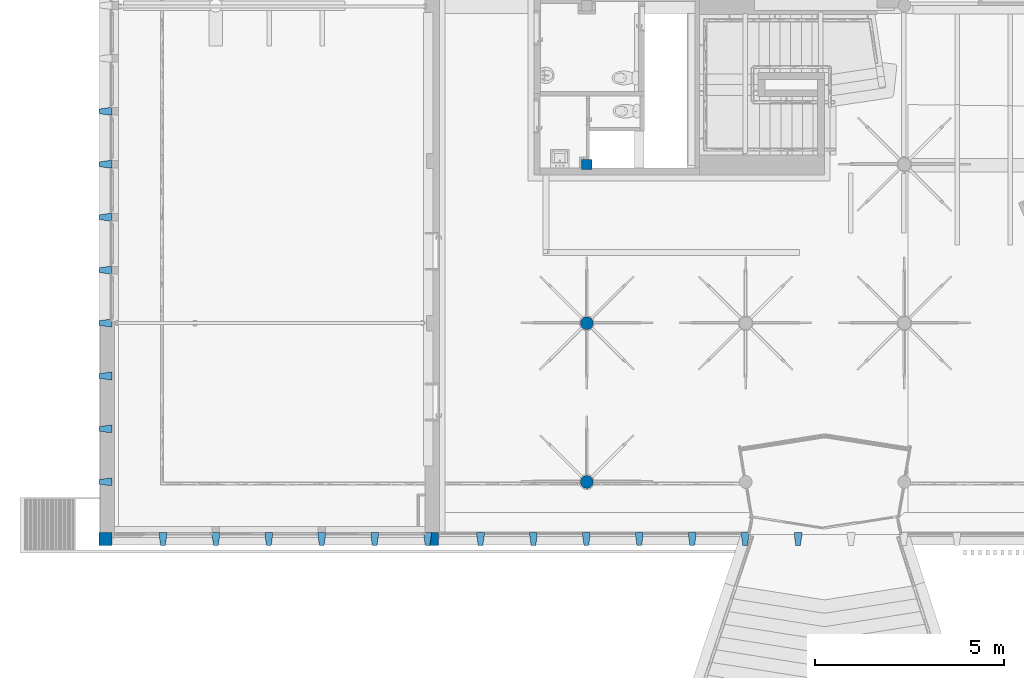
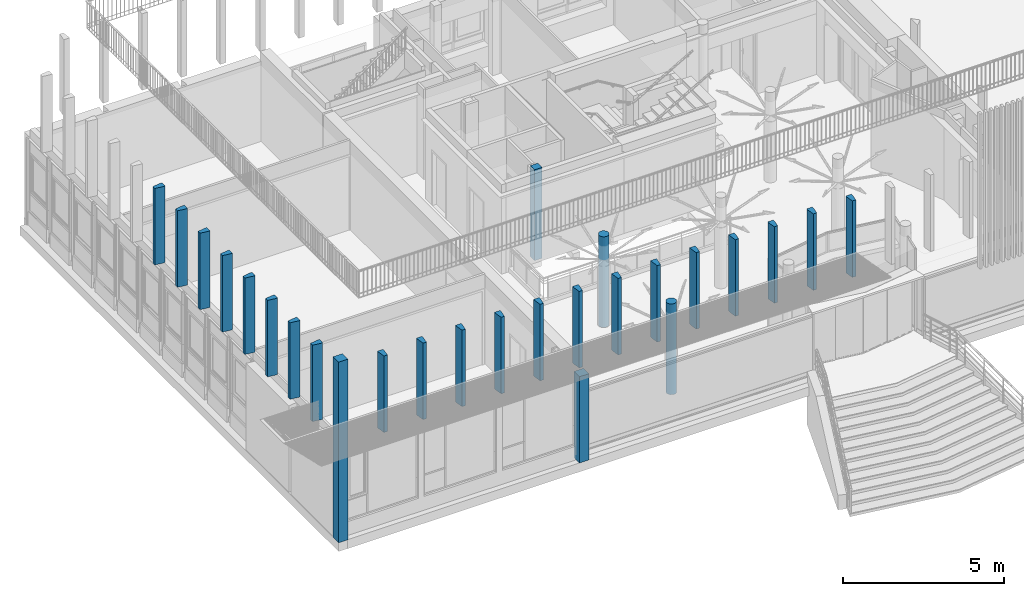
# One storey, part 1 of 65: 26 columns.
"""IFC4 building model written with IfcOpenShell, lengths in metres."""

from ifc_helpers import new_model, entity, si_unit, converted_unit, derived_unit, direction, frame, origin, place, context, subcontext, project, spatial, indexed_curve, outline, extrude, source, transform, mapped, material, material_list, type_object, type_shapes, element, save


model = new_model("IFC4")

# Units and contexts
model_context = context("Model", 3, precision=1e-05, world=origin(), true_north=direction((6.12303176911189e-17, 1.0)))
body_context = subcontext(model_context, "Body", "Model", "MODEL_VIEW")
ifc_project = project(units=[si_unit("LENGTHUNIT", "METRE"), si_unit("AREAUNIT", "SQUARE_METRE"), si_unit("VOLUMEUNIT", "CUBIC_METRE"), converted_unit("PLANEANGLEUNIT", "DEGREE", entity("IfcRatioMeasure", 0.0174532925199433), si_unit("PLANEANGLEUNIT", "RADIAN"), dimensions=[0, 0, 0, 0, 0, 0, 0]), si_unit("MASSUNIT", "GRAM", prefix="KILO"), derived_unit("MASSDENSITYUNIT", [(si_unit("MASSUNIT", "GRAM", prefix="KILO"), 1), (si_unit("LENGTHUNIT", "METRE"), -3)]), derived_unit("MOMENTOFINERTIAUNIT", [(si_unit("LENGTHUNIT", "METRE"), 4)]), si_unit("TIMEUNIT", "SECOND"), si_unit("FREQUENCYUNIT", "HERTZ"), si_unit("THERMODYNAMICTEMPERATUREUNIT", "DEGREE_CELSIUS"), derived_unit("THERMALTRANSMITTANCEUNIT", [(si_unit("MASSUNIT", "GRAM", prefix="KILO"), 1), (si_unit("THERMODYNAMICTEMPERATUREUNIT", "KELVIN"), -1), (si_unit("TIMEUNIT", "SECOND"), -3)]), derived_unit("VOLUMETRICFLOWRATEUNIT", [(si_unit("LENGTHUNIT", "METRE"), 3), (si_unit("TIMEUNIT", "SECOND"), -1)]), si_unit("ELECTRICCURRENTUNIT", "AMPERE"), si_unit("ELECTRICVOLTAGEUNIT", "VOLT"), si_unit("POWERUNIT", "WATT"), si_unit("FORCEUNIT", "NEWTON", prefix="KILO"), si_unit("ILLUMINANCEUNIT", "LUX"), si_unit("LUMINOUSFLUXUNIT", "LUMEN"), si_unit("LUMINOUSINTENSITYUNIT", "CANDELA"), derived_unit("USERDEFINED", [(si_unit("MASSUNIT", "GRAM", prefix="KILO"), -1), (si_unit("LENGTHUNIT", "METRE"), -2), (si_unit("TIMEUNIT", "SECOND"), 3), (si_unit("LUMINOUSFLUXUNIT", "LUMEN"), 1)]), derived_unit("LINEARVELOCITYUNIT", [(si_unit("LENGTHUNIT", "METRE"), 1), (si_unit("TIMEUNIT", "SECOND"), -1)]), si_unit("PRESSUREUNIT", "PASCAL"), derived_unit("USERDEFINED", [(si_unit("LENGTHUNIT", "METRE"), -2), (si_unit("MASSUNIT", "GRAM", prefix="KILO"), 1), (si_unit("TIMEUNIT", "SECOND"), -2)]), derived_unit("LINEARFORCEUNIT", [(si_unit("MASSUNIT", "GRAM", prefix="KILO"), 1), (si_unit("LENGTHUNIT", "METRE"), 1), (si_unit("TIMEUNIT", "SECOND"), -2), (si_unit("LENGTHUNIT", "METRE"), -1)]), derived_unit("PLANARFORCEUNIT", [(si_unit("MASSUNIT", "GRAM", prefix="KILO"), 1), (si_unit("LENGTHUNIT", "METRE"), 1), (si_unit("TIMEUNIT", "SECOND"), -2), (si_unit("LENGTHUNIT", "METRE"), -2)])], contexts=[model_context])

# Site, building, storey
site_placement = place(None, origin())
site = spatial("IfcSite", under=ifc_project, at=site_placement, Name="Default", CompositionType="ELEMENT")
building_placement = place(site_placement, origin())
building = spatial("IfcBuilding", under=site, at=building_placement, Name="HOTEL CONSULAIRE BOULOGNE SUR MER", CompositionType="ELEMENT")
storey_placement = place(building_placement, origin())
storey = spatial("IfcBuildingStorey", under=building, at=storey_placement, Name="Niveau 0", CompositionType="ELEMENT", Elevation=1.31981936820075e-13)

# Columns
ifc_material_1 = material(Name="Maçonnerie - Béton coulé sur place", Category="Béton")
column_type_1 = type_object("IfcColumnType", Name="Poteau béton - Arrondi:340", PredefinedType="COLUMN", material=ifc_material_1)
shared_shape_1 = source(origin(), body_context, "Body", "SweptSolid", [
    extrude(outline(indexed_curve([(0.169999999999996, -2.97350308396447e-16), (0.161679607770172, 0.0525328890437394), (0.137532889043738, 0.0999234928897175), (0.099923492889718, 0.137532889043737), (0.0525328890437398, 0.161679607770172), (1.86135598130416e-16, 0.169999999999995), (-0.0525328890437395, 0.161679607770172), (-0.0999234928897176, 0.137532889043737), (-0.137532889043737, 0.0999234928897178), (-0.161679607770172, 0.0525328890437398), (-0.169999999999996, 1.7643968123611e-16), (-0.161679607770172, -0.0525328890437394), (-0.137532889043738, -0.0999234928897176), (-0.0999234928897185, -0.137532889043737), (-0.0525328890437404, -0.161679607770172), (-8.18583797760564e-16, -0.169999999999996), (0.0525328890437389, -0.161679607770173), (0.0999234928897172, -0.137532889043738), (0.137532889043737, -0.099923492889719), (0.161679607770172, -0.052532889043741), (0.169999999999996, -2.97350308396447e-16)], self_intersect=False)), frame((0.0, 0.0, -0.0199999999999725)), (0.0, 0.0, 1.0), 3.44152697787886),
])
type_shapes(column_type_1, [shared_shape_1])
for number, where in (
    (1, (-1.22882322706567, -24.015909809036, 0.0)),
    (2, (-1.22882322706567, -28.215909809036, 0.0)),
):
    element("IfcColumn", number, at=place(storey_placement, frame(where)), inside=storey, type_object=column_type_1, material=ifc_material_1, Name="Poteau béton - Arrondi:340", ObjectType="Poteau béton - Arrondi:340", PredefinedType="COLUMN", context=body_context, shape_type="MappedRepresentation", body=[
        mapped(shared_shape_1, transform((0.0, 0.0, 0.0), scale=1.0)),
    ])
column_type_2 = type_object("IfcColumnType", Name="Poteau béton - Rectangulaire:270x270", PredefinedType="COLUMN", material=ifc_material_1)
shared_shape_2 = source(origin(), body_context, "Body", "SweptSolid", [
    extrude(outline(indexed_curve([(-0.135, -0.135), (0.135, -0.135), (0.135, 0.135), (-0.135, 0.135), (-0.135, -0.135)], self_intersect=False)), frame((-1.22882322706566, -19.815909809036, -0.0199999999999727), z_axis=(0.0, 0.0, 1.0), x_axis=(0.0, -1.0, 0.0)), (0.0, 0.0, 1.0), 3.44152697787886),
])
type_shapes(column_type_2, [shared_shape_2])
column_1_placement = place(storey_placement, origin())
element("IfcColumn", 3, at=column_1_placement, inside=storey, type_object=column_type_2, material=ifc_material_1, Name="Poteau béton - Rectangulaire:270x270", ObjectType="Poteau béton - Rectangulaire:270x270", PredefinedType="COLUMN", context=body_context, shape_type="MappedRepresentation", body=[
    mapped(shared_shape_2, transform((0.0, 0.0, 0.0), scale=1.0)),
])
column_type_3 = type_object("IfcColumnType", Name="Poteau béton - Rectangulaire:340x340", PredefinedType="COLUMN", material=ifc_material_1)
shared_shape_3 = source(origin(), body_context, "Body", "SweptSolid", [
    extrude(outline(indexed_curve([(-0.169999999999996, -0.17), (0.170000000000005, -0.17), (0.170000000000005, 0.17), (-0.169999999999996, 0.17), (-0.169999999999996, -0.17)], self_intersect=False)), frame((-13.9639806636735, -29.7240671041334, -0.219999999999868), z_axis=(0.0, 0.0, 1.0), x_axis=(0.0, -1.0, 0.0)), (0.0, 0.0, 1.0), 6.85199999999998),
])
type_shapes(column_type_3, [shared_shape_3])
column_2_placement = place(storey_placement, origin())
element("IfcColumn", 4, at=column_2_placement, inside=storey, type_object=column_type_3, material=ifc_material_1, Name="Poteau béton - Rectangulaire:340x340", ObjectType="Poteau béton - Rectangulaire:340x340", PredefinedType="COLUMN", context=body_context, shape_type="MappedRepresentation", body=[
    mapped(shared_shape_3, transform((0.0, 0.0, 0.0), scale=1.0)),
])
ifc_material_2 = material(Name="Finition Peinture - Blanc satiné", Category="Peinture")
ifc_material_list_1 = material_list([ifc_material_1, ifc_material_2])
column_type_4 = type_object("IfcColumnType", Name="Poteau béton - Rectangulaire:340x340", PredefinedType="COLUMN", material=ifc_material_list_1)
shared_shape_4 = source(origin(), body_context, "Body", "SweptSolid", [
    extrude(outline(indexed_curve([(-0.17, -0.17), (0.17, -0.17), (0.17, 0.169999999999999), (-0.17, 0.17), (-0.17, -0.17)], self_intersect=False)), frame((-5.31898066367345, -29.7240671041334, -0.219999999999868), z_axis=(0.0, 0.0, 1.0), x_axis=(0.0, -1.0, 0.0)), (0.0, 0.0, 1.0), 3.2715269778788),
])
type_shapes(column_type_4, [shared_shape_4])
column_3_placement = place(storey_placement, origin())
element("IfcColumn", 5, at=column_3_placement, inside=storey, type_object=column_type_4, material=ifc_material_2, Name="Poteau béton - Rectangulaire:340x340", ObjectType="Poteau béton - Rectangulaire:340x340", PredefinedType="COLUMN", context=body_context, shape_type="MappedRepresentation", body=[
    mapped(shared_shape_4, transform((0.0, 0.0, 0.0), scale=1.0)),
])
ifc_material_3 = material(Name="<Unnamed>")
ifc_material_list_2 = material_list([ifc_material_2, ifc_material_3])
column_type_5 = type_object("IfcColumnType", Name="Poteaux porteurs 23:Poteaux porteurs 1", PredefinedType="COLUMN", material=ifc_material_list_2)
shared_shape_5 = source(origin(), body_context, "Body", "SweptSolid", [
    extrude(outline(indexed_curve([(-0.140333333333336, -0.100000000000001), (-0.0593333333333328, -0.100000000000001), (0.199666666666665, -0.0611499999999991), (0.199666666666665, 0.0611499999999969), (-0.0593333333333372, 0.0999999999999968), (-0.140333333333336, 0.0999999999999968), (-0.140333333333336, -0.100000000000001)], self_intersect=False)), frame((-11.0414199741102, -29.6944004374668, 3.39110477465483), z_axis=(0.0, 0.0, 1.0), x_axis=(0.0, -1.0, 0.0)), (0.0, 0.0, 1.0), 2.90089522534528),
])
type_shapes(column_type_5, [shared_shape_5])
column_4_placement = place(storey_placement, frame((15.7659645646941, -33.6528698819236, 0.0), z_axis=(0.0, 0.0, 1.0), x_axis=(0.0, -1.0, 0.0)))
element("IfcColumn", 6, at=column_4_placement, inside=storey, type_object=column_type_5, material=ifc_material_2, Name="Poteaux porteurs 23:Poteaux porteurs 1", ObjectType="Poteaux porteurs 23:Poteaux porteurs 1", PredefinedType="COLUMN", context=body_context, shape_type="MappedRepresentation", body=[
    mapped(shared_shape_5, transform((0.0, 0.0, 0.0), scale=1.0)),
])
ifc_material_list_3 = material_list([ifc_material_2, ifc_material_3])
column_type_6 = type_object("IfcColumnType", Name="Poteaux porteurs 24:Poteaux porteurs 1", PredefinedType="COLUMN", material=ifc_material_list_3)
shared_shape_6 = source(origin(), body_context, "Body", "SweptSolid", [
    extrude(outline(indexed_curve([(-0.140333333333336, -0.100000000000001), (-0.0593333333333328, -0.100000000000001), (0.199666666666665, -0.0611499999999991), (0.199666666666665, 0.0611499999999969), (-0.0593333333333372, 0.0999999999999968), (-0.140333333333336, 0.0999999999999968), (-0.140333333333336, -0.100000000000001)], self_intersect=False)), frame((-11.0414199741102, -29.6944004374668, 3.39110477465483), z_axis=(0.0, 0.0, 1.0), x_axis=(0.0, -1.0, 0.0)), (0.0, 0.0, 1.0), 2.90089522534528),
])
type_shapes(column_type_6, [shared_shape_6])
column_5_placement = place(storey_placement, frame((15.7659645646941, -35.0528698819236, 0.0), z_axis=(0.0, 0.0, 1.0), x_axis=(0.0, -1.0, 0.0)))
element("IfcColumn", 7, at=column_5_placement, inside=storey, type_object=column_type_6, material=ifc_material_2, Name="Poteaux porteurs 24:Poteaux porteurs 1", ObjectType="Poteaux porteurs 24:Poteaux porteurs 1", PredefinedType="COLUMN", context=body_context, shape_type="MappedRepresentation", body=[
    mapped(shared_shape_6, transform((0.0, 0.0, 0.0), scale=1.0)),
])
ifc_material_list_4 = material_list([ifc_material_3, ifc_material_2])
column_type_7 = type_object("IfcColumnType", Name="Poteaux porteurs 25:Poteaux porteurs 1", PredefinedType="COLUMN", material=ifc_material_list_4)
shared_shape_7 = source(origin(), body_context, "Body", "SweptSolid", [
    extrude(outline(indexed_curve([(-0.140333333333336, -0.100000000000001), (-0.0593333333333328, -0.100000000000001), (0.199666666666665, -0.0611499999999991), (0.199666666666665, 0.0611499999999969), (-0.0593333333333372, 0.0999999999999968), (-0.140333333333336, 0.0999999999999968), (-0.140333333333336, -0.100000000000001)], self_intersect=False)), frame((-11.0414199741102, -29.6944004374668, 3.39110477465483), z_axis=(0.0, 0.0, 1.0), x_axis=(0.0, -1.0, 0.0)), (0.0, 0.0, 1.0), 2.90089522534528),
])
type_shapes(column_type_7, [shared_shape_7])
column_6_placement = place(storey_placement, frame((15.7659645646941, -37.8528698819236, 0.0), z_axis=(0.0, 0.0, 1.0), x_axis=(0.0, -1.0, 0.0)))
element("IfcColumn", 8, at=column_6_placement, inside=storey, type_object=column_type_7, material=ifc_material_2, Name="Poteaux porteurs 25:Poteaux porteurs 1", ObjectType="Poteaux porteurs 25:Poteaux porteurs 1", PredefinedType="COLUMN", context=body_context, shape_type="MappedRepresentation", body=[
    mapped(shared_shape_7, transform((0.0, 0.0, 0.0), scale=1.0)),
])
ifc_material_list_5 = material_list([ifc_material_3, ifc_material_2])
column_type_8 = type_object("IfcColumnType", Name="Poteaux porteurs 26:Poteaux porteurs 1", PredefinedType="COLUMN", material=ifc_material_list_5)
shared_shape_8 = source(origin(), body_context, "Body", "SweptSolid", [
    extrude(outline(indexed_curve([(-0.140333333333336, -0.100000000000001), (-0.0593333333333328, -0.100000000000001), (0.199666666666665, -0.0611499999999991), (0.199666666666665, 0.0611499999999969), (-0.0593333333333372, 0.0999999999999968), (-0.140333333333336, 0.0999999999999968), (-0.140333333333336, -0.100000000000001)], self_intersect=False)), frame((-11.0414199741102, -29.6944004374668, 3.39110477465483), z_axis=(0.0, 0.0, 1.0), x_axis=(0.0, -1.0, 0.0)), (0.0, 0.0, 1.0), 2.90089522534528),
])
type_shapes(column_type_8, [shared_shape_8])
column_7_placement = place(storey_placement, frame((15.7659645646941, -32.2528698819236, 0.0), z_axis=(0.0, 0.0, 1.0), x_axis=(0.0, -1.0, 0.0)))
element("IfcColumn", 9, at=column_7_placement, inside=storey, type_object=column_type_8, material=ifc_material_2, Name="Poteaux porteurs 26:Poteaux porteurs 1", ObjectType="Poteaux porteurs 26:Poteaux porteurs 1", PredefinedType="COLUMN", context=body_context, shape_type="MappedRepresentation", body=[
    mapped(shared_shape_8, transform((0.0, 0.0, 0.0), scale=1.0)),
])
ifc_material_list_6 = material_list([ifc_material_3, ifc_material_2])
column_type_9 = type_object("IfcColumnType", Name="Poteaux porteurs 27:Poteaux porteurs 1", PredefinedType="COLUMN", material=ifc_material_list_6)
shared_shape_9 = source(origin(), body_context, "Body", "SweptSolid", [
    extrude(outline(indexed_curve([(-0.140333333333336, -0.100000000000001), (-0.0593333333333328, -0.100000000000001), (0.199666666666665, -0.0611499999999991), (0.199666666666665, 0.0611499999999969), (-0.0593333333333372, 0.0999999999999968), (-0.140333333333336, 0.0999999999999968), (-0.140333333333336, -0.100000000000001)], self_intersect=False)), frame((-11.0414199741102, -29.6944004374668, 3.39110477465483), z_axis=(0.0, 0.0, 1.0), x_axis=(0.0, -1.0, 0.0)), (0.0, 0.0, 1.0), 2.90089522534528),
])
type_shapes(column_type_9, [shared_shape_9])
column_8_placement = place(storey_placement, frame((15.7659645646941, -30.8528698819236, 0.0), z_axis=(0.0, 0.0, 1.0), x_axis=(0.0, -1.0, 0.0)))
element("IfcColumn", 10, at=column_8_placement, inside=storey, type_object=column_type_9, material=ifc_material_2, Name="Poteaux porteurs 27:Poteaux porteurs 1", ObjectType="Poteaux porteurs 27:Poteaux porteurs 1", PredefinedType="COLUMN", context=body_context, shape_type="MappedRepresentation", body=[
    mapped(shared_shape_9, transform((0.0, 0.0, 0.0), scale=1.0)),
])
ifc_material_list_7 = material_list([ifc_material_3, ifc_material_2])
column_type_10 = type_object("IfcColumnType", Name="Poteaux porteurs 28:Poteaux porteurs 1", PredefinedType="COLUMN", material=ifc_material_list_7)
shared_shape_10 = source(origin(), body_context, "Body", "SweptSolid", [
    extrude(outline(indexed_curve([(-0.140333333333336, -0.100000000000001), (-0.0593333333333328, -0.100000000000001), (0.199666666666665, -0.0611499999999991), (0.199666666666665, 0.0611499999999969), (-0.0593333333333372, 0.0999999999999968), (-0.140333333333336, 0.0999999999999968), (-0.140333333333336, -0.100000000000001)], self_intersect=False)), frame((-11.0414199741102, -29.6944004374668, 3.39110477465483), z_axis=(0.0, 0.0, 1.0), x_axis=(0.0, -1.0, 0.0)), (0.0, 0.0, 1.0), 2.90089522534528),
])
type_shapes(column_type_10, [shared_shape_10])
column_9_placement = place(storey_placement, frame((15.7659645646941, -29.4528698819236, 0.0), z_axis=(0.0, 0.0, 1.0), x_axis=(0.0, -1.0, 0.0)))
element("IfcColumn", 11, at=column_9_placement, inside=storey, type_object=column_type_10, material=ifc_material_2, Name="Poteaux porteurs 28:Poteaux porteurs 1", ObjectType="Poteaux porteurs 28:Poteaux porteurs 1", PredefinedType="COLUMN", context=body_context, shape_type="MappedRepresentation", body=[
    mapped(shared_shape_10, transform((0.0, 0.0, 0.0), scale=1.0)),
])
ifc_material_list_8 = material_list([ifc_material_3, ifc_material_2])
column_type_11 = type_object("IfcColumnType", Name="Poteaux porteurs 34:Poteaux porteurs 1", PredefinedType="COLUMN", material=ifc_material_list_8)
shared_shape_11 = source(origin(), body_context, "Body", "SweptSolid", [
    extrude(outline(indexed_curve([(-0.140333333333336, -0.100000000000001), (-0.0593333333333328, -0.100000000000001), (0.199666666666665, -0.0611499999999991), (0.199666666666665, 0.0611499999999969), (-0.0593333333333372, 0.0999999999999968), (-0.140333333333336, 0.0999999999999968), (-0.140333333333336, -0.100000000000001)], self_intersect=False)), frame((-11.0414199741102, -29.6944004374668, 3.39110477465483), z_axis=(0.0, 0.0, 1.0), x_axis=(0.0, -1.0, 0.0)), (0.0, 0.0, 1.0), 2.90089522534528),
])
type_shapes(column_type_11, [shared_shape_11])
column_10_placement = place(storey_placement, frame((15.7659645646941, -36.4528698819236, 0.0), z_axis=(0.0, 0.0, 1.0), x_axis=(0.0, -1.0, 0.0)))
element("IfcColumn", 12, at=column_10_placement, inside=storey, type_object=column_type_11, material=ifc_material_2, Name="Poteaux porteurs 34:Poteaux porteurs 1", ObjectType="Poteaux porteurs 34:Poteaux porteurs 1", PredefinedType="COLUMN", context=body_context, shape_type="MappedRepresentation", body=[
    mapped(shared_shape_11, transform((0.0, 0.0, 0.0), scale=1.0)),
])
ifc_material_list_9 = material_list([ifc_material_2, ifc_material_3])
column_type_12 = type_object("IfcColumnType", Name="Poteaux porteurs 35:Poteaux porteurs 1", PredefinedType="COLUMN", material=ifc_material_list_9)
shared_shape_12 = source(origin(), body_context, "Body", "SweptSolid", [
    extrude(outline(indexed_curve([(-0.140333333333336, -0.100000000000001), (-0.0593333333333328, -0.100000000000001), (0.199666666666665, -0.0611499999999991), (0.199666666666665, 0.0611499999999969), (-0.0593333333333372, 0.0999999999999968), (-0.140333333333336, 0.0999999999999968), (-0.140333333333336, -0.100000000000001)], self_intersect=False)), frame((-11.0414199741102, -29.6944004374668, 3.39110477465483), z_axis=(0.0, 0.0, 1.0), x_axis=(0.0, -1.0, 0.0)), (0.0, 0.0, 1.0), 2.90089522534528),
])
type_shapes(column_type_12, [shared_shape_12])
column_11_placement = place(storey_placement, frame((15.7659645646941, -39.2528698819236, 0.0), z_axis=(0.0, 0.0, 1.0), x_axis=(0.0, -1.0, 0.0)))
element("IfcColumn", 13, at=column_11_placement, inside=storey, type_object=column_type_12, material=ifc_material_2, Name="Poteaux porteurs 35:Poteaux porteurs 1", ObjectType="Poteaux porteurs 35:Poteaux porteurs 1", PredefinedType="COLUMN", context=body_context, shape_type="MappedRepresentation", body=[
    mapped(shared_shape_12, transform((0.0, 0.0, 0.0), scale=1.0)),
])
ifc_material_list_10 = material_list([ifc_material_2, ifc_material_3])
column_type_13 = type_object("IfcColumnType", Name="Poteaux porteurs 36:Poteaux porteurs 1", PredefinedType="COLUMN", material=ifc_material_list_10)
shared_shape_13 = source(origin(), body_context, "Body", "SweptSolid", [
    extrude(outline(indexed_curve([(-0.140333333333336, -0.100000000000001), (-0.0593333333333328, -0.100000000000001), (0.199666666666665, -0.0611499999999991), (0.199666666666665, 0.0611499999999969), (-0.0593333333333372, 0.0999999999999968), (-0.140333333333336, 0.0999999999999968), (-0.140333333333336, -0.100000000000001)], self_intersect=False)), frame((-11.0414199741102, -29.6944004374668, 3.39112697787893), z_axis=(0.0, 0.0, 1.0), x_axis=(0.0, -1.0, 0.0)), (0.0, 0.0, 1.0), 2.90087302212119),
])
type_shapes(column_type_13, [shared_shape_13])
column_12_placement = place(storey_placement, origin())
element("IfcColumn", 14, at=column_12_placement, inside=storey, type_object=column_type_13, material=ifc_material_2, Name="Poteaux porteurs 36:Poteaux porteurs 1", ObjectType="Poteaux porteurs 36:Poteaux porteurs 1", PredefinedType="COLUMN", context=body_context, shape_type="MappedRepresentation", body=[
    mapped(shared_shape_13, transform((0.0, 0.0, 0.0), scale=1.0)),
])
ifc_material_list_11 = material_list([ifc_material_2, ifc_material_3])
column_type_14 = type_object("IfcColumnType", Name="Poteaux porteurs 37:Poteaux porteurs 1", PredefinedType="COLUMN", material=ifc_material_list_11)
shared_shape_14 = source(origin(), body_context, "Body", "SweptSolid", [
    extrude(outline(indexed_curve([(-0.140333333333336, -0.100000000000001), (-0.0593333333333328, -0.100000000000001), (0.199666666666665, -0.0611499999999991), (0.199666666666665, 0.0611499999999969), (-0.0593333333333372, 0.0999999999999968), (-0.140333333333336, 0.0999999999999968), (-0.140333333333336, -0.100000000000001)], self_intersect=False)), frame((-11.0414199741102, -29.6944004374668, 3.39112697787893), z_axis=(0.0, 0.0, 1.0), x_axis=(0.0, -1.0, 0.0)), (0.0, 0.0, 1.0), 2.90087302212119),
])
type_shapes(column_type_14, [shared_shape_14])
column_13_placement = place(storey_placement, frame((-1.4, 0.0, 0.0)))
element("IfcColumn", 15, at=column_13_placement, inside=storey, type_object=column_type_14, material=ifc_material_2, Name="Poteaux porteurs 37:Poteaux porteurs 1", ObjectType="Poteaux porteurs 37:Poteaux porteurs 1", PredefinedType="COLUMN", context=body_context, shape_type="MappedRepresentation", body=[
    mapped(shared_shape_14, transform((0.0, 0.0, 0.0), scale=1.0)),
])
ifc_material_list_12 = material_list([ifc_material_3, ifc_material_2])
column_type_15 = type_object("IfcColumnType", Name="Poteaux porteurs 38:Poteaux porteurs 1", PredefinedType="COLUMN", material=ifc_material_list_12)
shared_shape_15 = source(origin(), body_context, "Body", "SweptSolid", [
    extrude(outline(indexed_curve([(-0.140333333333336, -0.100000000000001), (-0.0593333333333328, -0.100000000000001), (0.199666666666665, -0.0611499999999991), (0.199666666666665, 0.0611499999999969), (-0.0593333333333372, 0.0999999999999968), (-0.140333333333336, 0.0999999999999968), (-0.140333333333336, -0.100000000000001)], self_intersect=False)), frame((-11.0414199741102, -29.6944004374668, 3.39112697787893), z_axis=(0.0, 0.0, 1.0), x_axis=(0.0, -1.0, 0.0)), (0.0, 0.0, 1.0), 2.90087302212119),
])
type_shapes(column_type_15, [shared_shape_15])
column_14_placement = place(storey_placement, frame((1.4, 0.0, 0.0)))
element("IfcColumn", 16, at=column_14_placement, inside=storey, type_object=column_type_15, material=ifc_material_2, Name="Poteaux porteurs 38:Poteaux porteurs 1", ObjectType="Poteaux porteurs 38:Poteaux porteurs 1", PredefinedType="COLUMN", context=body_context, shape_type="MappedRepresentation", body=[
    mapped(shared_shape_15, transform((0.0, 0.0, 0.0), scale=1.0)),
])
ifc_material_list_13 = material_list([ifc_material_2, ifc_material_3])
column_type_16 = type_object("IfcColumnType", Name="Poteaux porteurs 39:Poteaux porteurs 1", PredefinedType="COLUMN", material=ifc_material_list_13)
shared_shape_16 = source(origin(), body_context, "Body", "SweptSolid", [
    extrude(outline(indexed_curve([(-0.140333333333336, -0.100000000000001), (-0.0593333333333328, -0.100000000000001), (0.199666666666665, -0.0611499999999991), (0.199666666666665, 0.0611499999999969), (-0.0593333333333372, 0.0999999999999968), (-0.140333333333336, 0.0999999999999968), (-0.140333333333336, -0.100000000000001)], self_intersect=False)), frame((-11.0414199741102, -29.6944004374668, 3.39112697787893), z_axis=(0.0, 0.0, 1.0), x_axis=(0.0, -1.0, 0.0)), (0.0, 0.0, 1.0), 2.90087302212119),
])
type_shapes(column_type_16, [shared_shape_16])
column_15_placement = place(storey_placement, frame((2.8, 0.0, 0.0)))
element("IfcColumn", 17, at=column_15_placement, inside=storey, type_object=column_type_16, material=ifc_material_2, Name="Poteaux porteurs 39:Poteaux porteurs 1", ObjectType="Poteaux porteurs 39:Poteaux porteurs 1", PredefinedType="COLUMN", context=body_context, shape_type="MappedRepresentation", body=[
    mapped(shared_shape_16, transform((0.0, 0.0, 0.0), scale=1.0)),
])
ifc_material_list_14 = material_list([ifc_material_3, ifc_material_2])
column_type_17 = type_object("IfcColumnType", Name="Poteaux porteurs 40:Poteaux porteurs 1", PredefinedType="COLUMN", material=ifc_material_list_14)
shared_shape_17 = source(origin(), body_context, "Body", "SweptSolid", [
    extrude(outline(indexed_curve([(-0.140333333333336, -0.100000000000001), (-0.0593333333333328, -0.100000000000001), (0.199666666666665, -0.0611499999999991), (0.199666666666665, 0.0611499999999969), (-0.0593333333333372, 0.0999999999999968), (-0.140333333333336, 0.0999999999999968), (-0.140333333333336, -0.100000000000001)], self_intersect=False)), frame((-11.0414199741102, -29.6944004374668, 3.39112697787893), z_axis=(0.0, 0.0, 1.0), x_axis=(0.0, -1.0, 0.0)), (0.0, 0.0, 1.0), 2.90087302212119),
])
type_shapes(column_type_17, [shared_shape_17])
column_16_placement = place(storey_placement, frame((4.2, 0.0, 0.0)))
element("IfcColumn", 18, at=column_16_placement, inside=storey, type_object=column_type_17, material=ifc_material_2, Name="Poteaux porteurs 40:Poteaux porteurs 1", ObjectType="Poteaux porteurs 40:Poteaux porteurs 1", PredefinedType="COLUMN", context=body_context, shape_type="MappedRepresentation", body=[
    mapped(shared_shape_17, transform((0.0, 0.0, 0.0), scale=1.0)),
])
ifc_material_list_15 = material_list([ifc_material_3, ifc_material_2])
column_type_18 = type_object("IfcColumnType", Name="Poteaux porteurs 41:Poteaux porteurs 1", PredefinedType="COLUMN", material=ifc_material_list_15)
shared_shape_18 = source(origin(), body_context, "Body", "SweptSolid", [
    extrude(outline(indexed_curve([(-0.140333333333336, -0.100000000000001), (-0.0593333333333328, -0.100000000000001), (0.199666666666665, -0.0611499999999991), (0.199666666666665, 0.0611499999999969), (-0.0593333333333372, 0.0999999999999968), (-0.140333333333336, 0.0999999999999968), (-0.140333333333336, -0.100000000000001)], self_intersect=False)), frame((-11.0414199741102, -29.6944004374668, 3.39112697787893), z_axis=(0.0, 0.0, 1.0), x_axis=(0.0, -1.0, 0.0)), (0.0, 0.0, 1.0), 2.90087302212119),
])
type_shapes(column_type_18, [shared_shape_18])
column_17_placement = place(storey_placement, frame((5.59999999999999, 0.0, 0.0)))
element("IfcColumn", 19, at=column_17_placement, inside=storey, type_object=column_type_18, material=ifc_material_2, Name="Poteaux porteurs 41:Poteaux porteurs 1", ObjectType="Poteaux porteurs 41:Poteaux porteurs 1", PredefinedType="COLUMN", context=body_context, shape_type="MappedRepresentation", body=[
    mapped(shared_shape_18, transform((0.0, 0.0, 0.0), scale=1.0)),
])
ifc_material_list_16 = material_list([ifc_material_2, ifc_material_3])
column_type_19 = type_object("IfcColumnType", Name="Poteaux porteurs 42:Poteaux porteurs 1", PredefinedType="COLUMN", material=ifc_material_list_16)
shared_shape_19 = source(origin(), body_context, "Body", "SweptSolid", [
    extrude(outline(indexed_curve([(-0.140333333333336, -0.100000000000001), (-0.0593333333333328, -0.100000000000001), (0.199666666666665, -0.0611499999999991), (0.199666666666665, 0.0611499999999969), (-0.0593333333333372, 0.0999999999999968), (-0.140333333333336, 0.0999999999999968), (-0.140333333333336, -0.100000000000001)], self_intersect=False)), frame((-11.0414199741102, -29.6944004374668, 3.39112697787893), z_axis=(0.0, 0.0, 1.0), x_axis=(0.0, -1.0, 0.0)), (0.0, 0.0, 1.0), 2.90087302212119),
])
type_shapes(column_type_19, [shared_shape_19])
column_18_placement = place(storey_placement, frame((7.0, 0.0, 0.0)))
element("IfcColumn", 20, at=column_18_placement, inside=storey, type_object=column_type_19, material=ifc_material_2, Name="Poteaux porteurs 42:Poteaux porteurs 1", ObjectType="Poteaux porteurs 42:Poteaux porteurs 1", PredefinedType="COLUMN", context=body_context, shape_type="MappedRepresentation", body=[
    mapped(shared_shape_19, transform((0.0, 0.0, 0.0), scale=1.0)),
])
ifc_material_list_17 = material_list([ifc_material_3, ifc_material_2])
column_type_20 = type_object("IfcColumnType", Name="Poteaux porteurs 43:Poteaux porteurs 1", PredefinedType="COLUMN", material=ifc_material_list_17)
shared_shape_20 = source(origin(), body_context, "Body", "SweptSolid", [
    extrude(outline(indexed_curve([(-0.140333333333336, -0.100000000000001), (-0.0593333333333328, -0.100000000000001), (0.199666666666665, -0.0611499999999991), (0.199666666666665, 0.0611499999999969), (-0.0593333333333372, 0.0999999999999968), (-0.140333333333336, 0.0999999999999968), (-0.140333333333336, -0.100000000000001)], self_intersect=False)), frame((-11.0414199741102, -29.6944004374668, 3.39112697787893), z_axis=(0.0, 0.0, 1.0), x_axis=(0.0, -1.0, 0.0)), (0.0, 0.0, 1.0), 2.90087302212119),
])
type_shapes(column_type_20, [shared_shape_20])
column_19_placement = place(storey_placement, frame((8.39999999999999, 0.0, 0.0)))
element("IfcColumn", 21, at=column_19_placement, inside=storey, type_object=column_type_20, material=ifc_material_2, Name="Poteaux porteurs 43:Poteaux porteurs 1", ObjectType="Poteaux porteurs 43:Poteaux porteurs 1", PredefinedType="COLUMN", context=body_context, shape_type="MappedRepresentation", body=[
    mapped(shared_shape_20, transform((0.0, 0.0, 0.0), scale=1.0)),
])
ifc_material_list_18 = material_list([ifc_material_3, ifc_material_2])
column_type_21 = type_object("IfcColumnType", Name="Poteaux porteurs 44:Poteaux porteurs 1", PredefinedType="COLUMN", material=ifc_material_list_18)
shared_shape_21 = source(origin(), body_context, "Body", "SweptSolid", [
    extrude(outline(indexed_curve([(-0.140333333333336, -0.100000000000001), (-0.0593333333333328, -0.100000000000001), (0.199666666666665, -0.0611499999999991), (0.199666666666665, 0.0611499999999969), (-0.0593333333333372, 0.0999999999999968), (-0.140333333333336, 0.0999999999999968), (-0.140333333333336, -0.100000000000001)], self_intersect=False)), frame((-11.0414199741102, -29.6944004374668, 3.39112697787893), z_axis=(0.0, 0.0, 1.0), x_axis=(0.0, -1.0, 0.0)), (0.0, 0.0, 1.0), 2.90087302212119),
])
type_shapes(column_type_21, [shared_shape_21])
column_20_placement = place(storey_placement, frame((9.79999999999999, 0.0, 0.0)))
element("IfcColumn", 22, at=column_20_placement, inside=storey, type_object=column_type_21, material=ifc_material_2, Name="Poteaux porteurs 44:Poteaux porteurs 1", ObjectType="Poteaux porteurs 44:Poteaux porteurs 1", PredefinedType="COLUMN", context=body_context, shape_type="MappedRepresentation", body=[
    mapped(shared_shape_21, transform((0.0, 0.0, 0.0), scale=1.0)),
])
ifc_material_list_19 = material_list([ifc_material_2, ifc_material_3])
column_type_22 = type_object("IfcColumnType", Name="Poteaux porteurs 45:Poteaux porteurs 1", PredefinedType="COLUMN", material=ifc_material_list_19)
shared_shape_22 = source(origin(), body_context, "Body", "SweptSolid", [
    extrude(outline(indexed_curve([(-0.140333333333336, -0.100000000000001), (-0.0593333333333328, -0.100000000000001), (0.199666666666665, -0.0611499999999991), (0.199666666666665, 0.0611499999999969), (-0.0593333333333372, 0.0999999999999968), (-0.140333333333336, 0.0999999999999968), (-0.140333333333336, -0.100000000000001)], self_intersect=False)), frame((-11.0414199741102, -29.6944004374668, 3.39112697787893), z_axis=(0.0, 0.0, 1.0), x_axis=(0.0, -1.0, 0.0)), (0.0, 0.0, 1.0), 2.90087302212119),
])
type_shapes(column_type_22, [shared_shape_22])
column_21_placement = place(storey_placement, frame((11.2, 0.0, 0.0)))
element("IfcColumn", 23, at=column_21_placement, inside=storey, type_object=column_type_22, material=ifc_material_2, Name="Poteaux porteurs 45:Poteaux porteurs 1", ObjectType="Poteaux porteurs 45:Poteaux porteurs 1", PredefinedType="COLUMN", context=body_context, shape_type="MappedRepresentation", body=[
    mapped(shared_shape_22, transform((0.0, 0.0, 0.0), scale=1.0)),
])
ifc_material_list_20 = material_list([ifc_material_2, ifc_material_3])
column_type_23 = type_object("IfcColumnType", Name="Poteaux porteurs 46:Poteaux porteurs 1", PredefinedType="COLUMN", material=ifc_material_list_20)
shared_shape_23 = source(origin(), body_context, "Body", "SweptSolid", [
    extrude(outline(indexed_curve([(-0.140333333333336, -0.100000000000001), (-0.0593333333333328, -0.100000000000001), (0.199666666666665, -0.0611499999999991), (0.199666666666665, 0.0611499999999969), (-0.0593333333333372, 0.0999999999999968), (-0.140333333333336, 0.0999999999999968), (-0.140333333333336, -0.100000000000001)], self_intersect=False)), frame((-11.0414199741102, -29.6944004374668, 3.39112697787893), z_axis=(0.0, 0.0, 1.0), x_axis=(0.0, -1.0, 0.0)), (0.0, 0.0, 1.0), 2.90087302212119),
])
type_shapes(column_type_23, [shared_shape_23])
column_22_placement = place(storey_placement, frame((12.6, 0.0, 0.0)))
element("IfcColumn", 24, at=column_22_placement, inside=storey, type_object=column_type_23, material=ifc_material_2, Name="Poteaux porteurs 46:Poteaux porteurs 1", ObjectType="Poteaux porteurs 46:Poteaux porteurs 1", PredefinedType="COLUMN", context=body_context, shape_type="MappedRepresentation", body=[
    mapped(shared_shape_23, transform((0.0, 0.0, 0.0), scale=1.0)),
])
ifc_material_list_21 = material_list([ifc_material_3, ifc_material_2])
column_type_24 = type_object("IfcColumnType", Name="Poteaux porteurs 47:Poteaux porteurs 1", PredefinedType="COLUMN", material=ifc_material_list_21)
shared_shape_24 = source(origin(), body_context, "Body", "SweptSolid", [
    extrude(outline(indexed_curve([(-0.140333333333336, -0.100000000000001), (-0.0593333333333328, -0.100000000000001), (0.199666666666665, -0.0611499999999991), (0.199666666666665, 0.0611499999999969), (-0.0593333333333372, 0.0999999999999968), (-0.140333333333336, 0.0999999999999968), (-0.140333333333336, -0.100000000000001)], self_intersect=False)), frame((-11.0414199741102, -29.6944004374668, 3.39112697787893), z_axis=(0.0, 0.0, 1.0), x_axis=(0.0, -1.0, 0.0)), (0.0, 0.0, 1.0), 2.90087302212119),
])
type_shapes(column_type_24, [shared_shape_24])
column_23_placement = place(storey_placement, frame((14.0, 0.0, 0.0)))
element("IfcColumn", 25, at=column_23_placement, inside=storey, type_object=column_type_24, material=ifc_material_2, Name="Poteaux porteurs 47:Poteaux porteurs 1", ObjectType="Poteaux porteurs 47:Poteaux porteurs 1", PredefinedType="COLUMN", context=body_context, shape_type="MappedRepresentation", body=[
    mapped(shared_shape_24, transform((0.0, 0.0, 0.0), scale=1.0)),
])
ifc_material_list_22 = material_list([ifc_material_2, ifc_material_3])
column_type_25 = type_object("IfcColumnType", Name="Poteaux porteurs 48:Poteaux porteurs 1", PredefinedType="COLUMN", material=ifc_material_list_22)
shared_shape_25 = source(origin(), body_context, "Body", "SweptSolid", [
    extrude(outline(indexed_curve([(-0.140333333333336, -0.100000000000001), (-0.0593333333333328, -0.100000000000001), (0.199666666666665, -0.0611499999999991), (0.199666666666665, 0.0611499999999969), (-0.0593333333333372, 0.0999999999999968), (-0.140333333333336, 0.0999999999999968), (-0.140333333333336, -0.100000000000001)], self_intersect=False)), frame((-11.0414199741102, -29.6944004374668, 3.39112697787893), z_axis=(0.0, 0.0, 1.0), x_axis=(0.0, -1.0, 0.0)), (0.0, 0.0, 1.0), 2.90087302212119),
])
type_shapes(column_type_25, [shared_shape_25])
column_24_placement = place(storey_placement, frame((15.4, 0.0, 0.0)))
element("IfcColumn", 26, at=column_24_placement, inside=storey, type_object=column_type_25, material=ifc_material_2, Name="Poteaux porteurs 48:Poteaux porteurs 1", ObjectType="Poteaux porteurs 48:Poteaux porteurs 1", PredefinedType="COLUMN", context=body_context, shape_type="MappedRepresentation", body=[
    mapped(shared_shape_25, transform((0.0, 0.0, 0.0), scale=1.0)),
])

save(model, "model.ifc")
